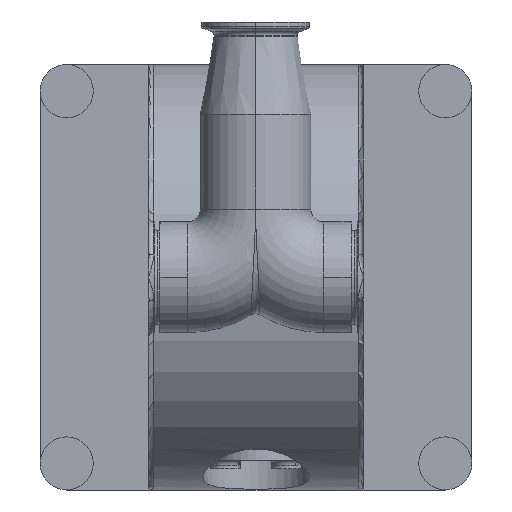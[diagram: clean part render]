
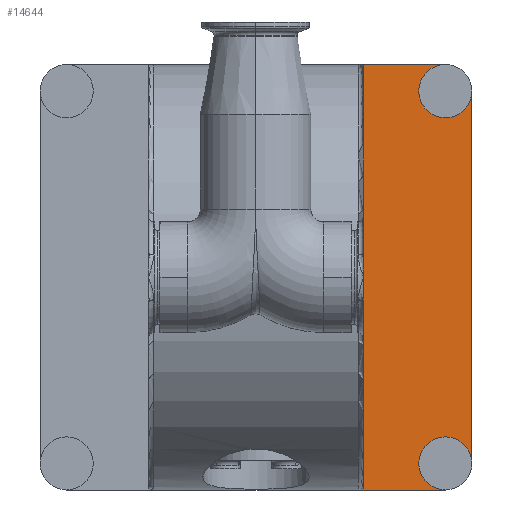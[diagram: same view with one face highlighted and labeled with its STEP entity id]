
A CAD part, front view. The second image highlights one B-rep face of the part: STEP entity #14644.
In plain terms, the highlighted planar face has unit normal (0, -1, 0).
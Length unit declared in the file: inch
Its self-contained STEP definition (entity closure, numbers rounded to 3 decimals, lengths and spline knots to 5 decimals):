
#1014=DIRECTION('',(0.,0.,1.));
#1015=VECTOR('',#1014,3.47746);
#1016=CARTESIAN_POINT('',(2.60993,-6.22193,
0.45955));
#1017=LINE('',#1016,#1015);
#1043=DIRECTION('',(1.,0.,0.));
#1044=VECTOR('',#1043,1.51575);
#1045=CARTESIAN_POINT('',(2.60993,-6.22193,3.93701));
#1046=LINE('',#1045,#1044);
#1056=CARTESIAN_POINT('',(4.12568,-6.22193,
-3.44488));
#1057=DIRECTION('',(0.,1.,0.));
#1058=DIRECTION('',(0.,0.,1.));
#1059=AXIS2_PLACEMENT_3D('',#1056,#1057,#1058);
#1061=CARTESIAN_POINT('',(4.12568,-6.22193,
-3.44488));
#1062=DIRECTION('',(0.,1.,0.));
#1063=DIRECTION('',(0.,0.,-1.));
#1064=AXIS2_PLACEMENT_3D('',#1061,#1062,#1063);
#1066=DIRECTION('',(1.,0.,0.));
#1067=VECTOR('',#1066,1.51575);
#1068=CARTESIAN_POINT('',(2.60993,-6.22193,
-3.93701));
#1069=LINE('',#1068,#1067);
#1070=CARTESIAN_POINT('',(4.12568,-6.22193,3.44488));
#1071=DIRECTION('',(0.,1.,0.));
#1072=DIRECTION('',(0.,0.,-1.));
#1073=AXIS2_PLACEMENT_3D('',#1070,#1071,#1072);
#1075=CARTESIAN_POINT('',(4.12568,-6.22193,3.44488));
#1076=DIRECTION('',(0.,1.,0.));
#1077=DIRECTION('',(1.,0.,0.));
#1078=AXIS2_PLACEMENT_3D('',#1075,#1076,#1077);
#1106=DIRECTION('',(0.,0.,-1.));
#1107=VECTOR('',#1106,6.88976);
#1108=CARTESIAN_POINT('',(4.6178,-6.22193,3.44488));
#1109=LINE('',#1108,#1107);
#3179=DIRECTION('',(0.,0.,1.));
#3180=VECTOR('',#3179,3.47746);
#3181=CARTESIAN_POINT('',(2.60993,-6.22193,
-3.93701));
#3182=LINE('',#3181,#3180);
#3188=DIRECTION('',(0.,0.,1.));
#3189=VECTOR('',#3188,0.45955);
#3190=CARTESIAN_POINT('',(2.60993,-6.22193,
-0.45955));
#3191=LINE('',#3190,#3189);
#3233=DIRECTION('',(0.,0.,1.));
#3234=VECTOR('',#3233,0.45955);
#3235=CARTESIAN_POINT('',(2.60993,-6.22193,0.));
#3236=LINE('',#3235,#3234);
#11270=CARTESIAN_POINT('',(2.60993,-6.22193,
3.93701));
#11271=CARTESIAN_POINT('',(4.12568,-6.22193,
3.93701));
#11272=VERTEX_POINT('',#11270);
#11273=VERTEX_POINT('',#11271);
#11276=CARTESIAN_POINT('',(2.60993,-6.22193,
-0.45955));
#11278=VERTEX_POINT('',#11276);
#11309=CARTESIAN_POINT('',(2.60993,-6.22193,0.));
#11310=VERTEX_POINT('',#11309);
#11359=CARTESIAN_POINT('',(2.60993,-6.22193,
0.45955));
#11360=VERTEX_POINT('',#11359);
#11393=CARTESIAN_POINT('',(4.12568,-6.22193,
-2.95276));
#11395=VERTEX_POINT('',#11393);
#11422=CARTESIAN_POINT('',(4.12568,-6.22193,
-3.93701));
#11423=VERTEX_POINT('',#11422);
#11466=CARTESIAN_POINT('',(4.6178,-6.22193,
3.44488));
#11467=CARTESIAN_POINT('',(4.6178,-6.22193,
-3.44488));
#11468=VERTEX_POINT('',#11466);
#11469=VERTEX_POINT('',#11467);
#11479=CARTESIAN_POINT('',(2.60993,-6.22193,
-3.93701));
#11481=VERTEX_POINT('',#11479);
#11523=CARTESIAN_POINT('',(4.12568,-6.22193,
2.95276));
#11524=VERTEX_POINT('',#11523);
#14617=CARTESIAN_POINT('',(2.84615,-6.22193,
3.93701));
#14618=DIRECTION('',(0.,1.,0.));
#14619=DIRECTION('',(-1.,0.,0.));
#14620=AXIS2_PLACEMENT_3D('',#14617,#14618,#14619);
#14621=PLANE('',#14620);
#14623=ORIENTED_EDGE('',*,*,#14622,.F.);
#14625=ORIENTED_EDGE('',*,*,#14624,.F.);
#14627=ORIENTED_EDGE('',*,*,#14626,.F.);
#14629=ORIENTED_EDGE('',*,*,#14628,.T.);
#14631=ORIENTED_EDGE('',*,*,#14630,.T.);
#14633=ORIENTED_EDGE('',*,*,#14632,.T.);
#14634=ORIENTED_EDGE('',*,*,#14577,.T.);
#14635=ORIENTED_EDGE('',*,*,#14600,.T.);
#14637=ORIENTED_EDGE('',*,*,#14636,.F.);
#14639=ORIENTED_EDGE('',*,*,#14638,.F.);
#14641=ORIENTED_EDGE('',*,*,#14640,.T.);
#14642=EDGE_LOOP('',(#14623,#14625,#14627,#14629,#14631,#14633,#14634,#14635,
#14637,#14639,#14641));
#14643=FACE_OUTER_BOUND('',#14642,.F.);
#14644=ADVANCED_FACE('',(#14643),#14621,.F.);
#1060=CIRCLE('',#1059,0.49213);
#1065=CIRCLE('',#1064,0.49213);
#1074=CIRCLE('',#1073,0.49213);
#1079=CIRCLE('',#1078,0.49213);
#14577=EDGE_CURVE('',#11360,#11272,#1017,.T.);
#14600=EDGE_CURVE('',#11272,#11273,#1046,.T.);
#14622=EDGE_CURVE('',#11395,#11469,#1060,.T.);
#14624=EDGE_CURVE('',#11423,#11395,#1065,.T.);
#14626=EDGE_CURVE('',#11481,#11423,#1069,.T.);
#14628=EDGE_CURVE('',#11481,#11278,#3182,.T.);
#14630=EDGE_CURVE('',#11278,#11310,#3191,.T.);
#14632=EDGE_CURVE('',#11310,#11360,#3236,.T.);
#14636=EDGE_CURVE('',#11524,#11273,#1074,.T.);
#14638=EDGE_CURVE('',#11468,#11524,#1079,.T.);
#14640=EDGE_CURVE('',#11468,#11469,#1109,.T.);
